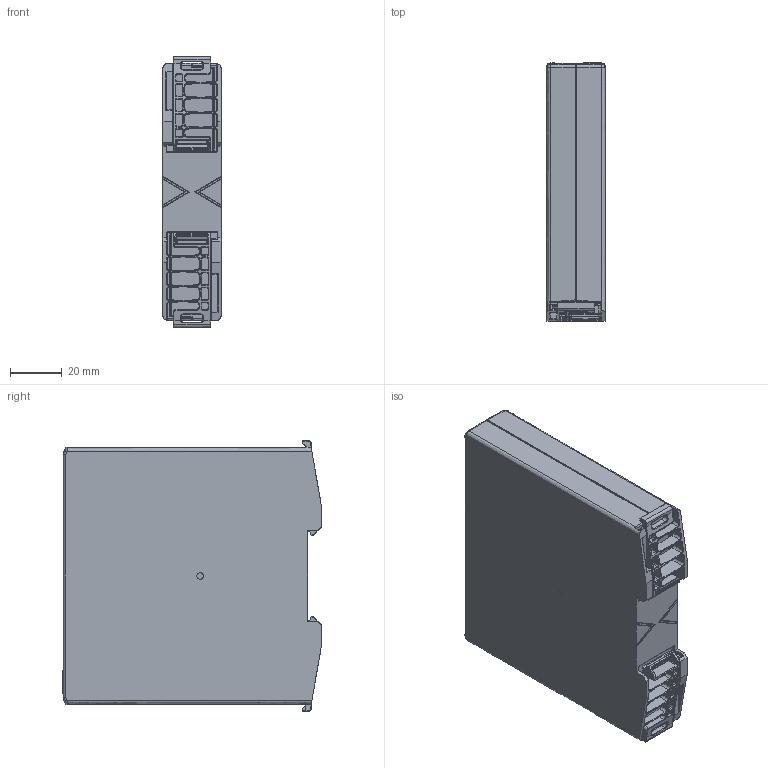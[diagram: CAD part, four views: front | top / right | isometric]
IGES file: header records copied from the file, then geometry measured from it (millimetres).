
Start section:  PTC IGES file: 2012865
Global section: file name: 2012865; native system: Pro/ENGINEER by Parametric Technology Corporation; preprocessor: 2011040; author: merz; organization: Unknown; date: 20130425.154317; units: millimetre
Bounding box: 22.5 x 100.3 x 105 mm (x, y, z)
Surface area: 34715.4 mm2 (no closed solid volume)
Topology: 0 solids, 0 shells, 1212 faces, 5922 edges, 5920 vertices
Faces by surface type: revolution 614, bspline 598
